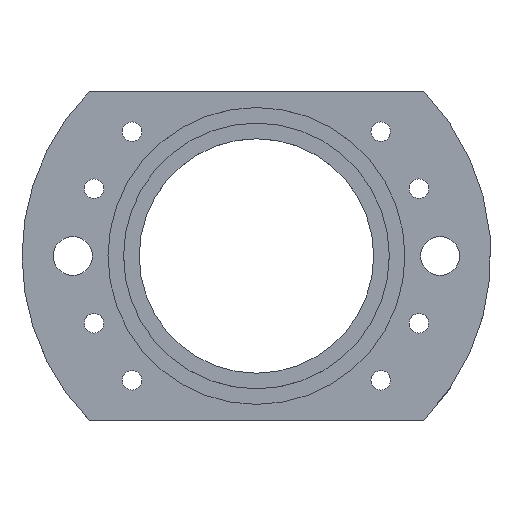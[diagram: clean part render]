
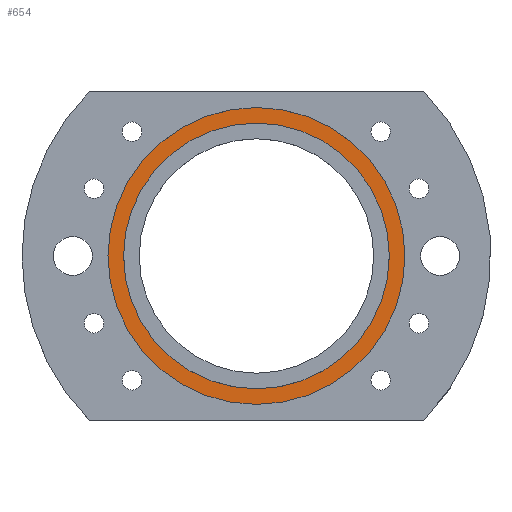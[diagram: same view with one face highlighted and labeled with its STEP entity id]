
A CAD part, top view. The second image highlights one B-rep face of the part: STEP entity #654.
In plain terms, the highlighted planar face has unit normal (0, 0, 1).
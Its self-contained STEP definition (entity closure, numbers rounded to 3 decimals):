
#34 = ORIENTED_EDGE ( 'NONE', *, *, #328, .F. ) ;
#40 = AXIS2_PLACEMENT_3D ( 'NONE', #519, #392, #1200 ) ;
#45 = CARTESIAN_POINT ( 'NONE',  ( -19., 0., 3. ) ) ;
#57 = EDGE_CURVE ( 'NONE', #1161, #401, #330, .T. ) ;
#80 = DIRECTION ( 'NONE',  ( 1., 0., 0. ) ) ;
#98 = CARTESIAN_POINT ( 'NONE',  ( 0., 0., 3. ) ) ;
#118 = DIRECTION ( 'NONE',  ( 0., 0., 1. ) ) ;
#135 = CARTESIAN_POINT ( 'NONE',  ( -17., 0., 3. ) ) ;
#283 = DIRECTION ( 'NONE',  ( 1., 0., 0. ) ) ;
#294 = CARTESIAN_POINT ( 'NONE',  ( 0., 0., 3. ) ) ;
#297 = CARTESIAN_POINT ( 'NONE',  ( 19., 0., 3. ) ) ;
#328 = EDGE_CURVE ( 'NONE', #638, #899, #851, .T. ) ;
#330 = CIRCLE ( 'NONE', #1039, 19. ) ;
#363 = AXIS2_PLACEMENT_3D ( 'NONE', #294, #1093, #283 ) ;
#392 = DIRECTION ( 'NONE',  ( 0., 0., 1. ) ) ;
#401 = VERTEX_POINT ( 'NONE', #45 ) ;
#423 = DIRECTION ( 'NONE',  ( 0., 0., 1. ) ) ;
#438 = ORIENTED_EDGE ( 'NONE', *, *, #1115, .F. ) ;
#440 = EDGE_LOOP ( 'NONE', ( #34, #438 ) ) ;
#496 = ORIENTED_EDGE ( 'NONE', *, *, #57, .T. ) ;
#519 = CARTESIAN_POINT ( 'NONE',  ( 0., 0., 3. ) ) ;
#578 = DIRECTION ( 'NONE',  ( 1., 0., 0. ) ) ;
#582 = CIRCLE ( 'NONE', #363, 19. ) ;
#638 = VERTEX_POINT ( 'NONE', #1032 ) ;
#654 = ADVANCED_FACE ( 'NONE', ( #1080, #733 ), #1208, .T. ) ;
#733 = FACE_OUTER_BOUND ( 'NONE', #764, .T. ) ;
#764 = EDGE_LOOP ( 'NONE', ( #496, #1401 ) ) ;
#773 = AXIS2_PLACEMENT_3D ( 'NONE', #98, #118, #578 ) ;
#848 = DIRECTION ( 'NONE',  ( 1., 0., 0. ) ) ;
#851 = CIRCLE ( 'NONE', #773, 17. ) ;
#899 = VERTEX_POINT ( 'NONE', #135 ) ;
#1032 = CARTESIAN_POINT ( 'NONE',  ( 17., 0., 3. ) ) ;
#1039 = AXIS2_PLACEMENT_3D ( 'NONE', #1107, #1357, #848 ) ;
#1080 = FACE_BOUND ( 'NONE', #440, .T. ) ;
#1093 = DIRECTION ( 'NONE',  ( 0., 0., 1. ) ) ;
#1107 = CARTESIAN_POINT ( 'NONE',  ( 0., 0., 3. ) ) ;
#1111 = AXIS2_PLACEMENT_3D ( 'NONE', #1350, #423, #80 ) ;
#1115 = EDGE_CURVE ( 'NONE', #899, #638, #1179, .T. ) ;
#1161 = VERTEX_POINT ( 'NONE', #297 ) ;
#1179 = CIRCLE ( 'NONE', #1111, 17. ) ;
#1200 = DIRECTION ( 'NONE',  ( 1., 0., 0. ) ) ;
#1208 = PLANE ( 'NONE',  #40 ) ;
#1350 = CARTESIAN_POINT ( 'NONE',  ( 0., 0., 3. ) ) ;
#1357 = DIRECTION ( 'NONE',  ( 0., 0., 1. ) ) ;
#1396 = EDGE_CURVE ( 'NONE', #401, #1161, #582, .T. ) ;
#1401 = ORIENTED_EDGE ( 'NONE', *, *, #1396, .T. ) ;
